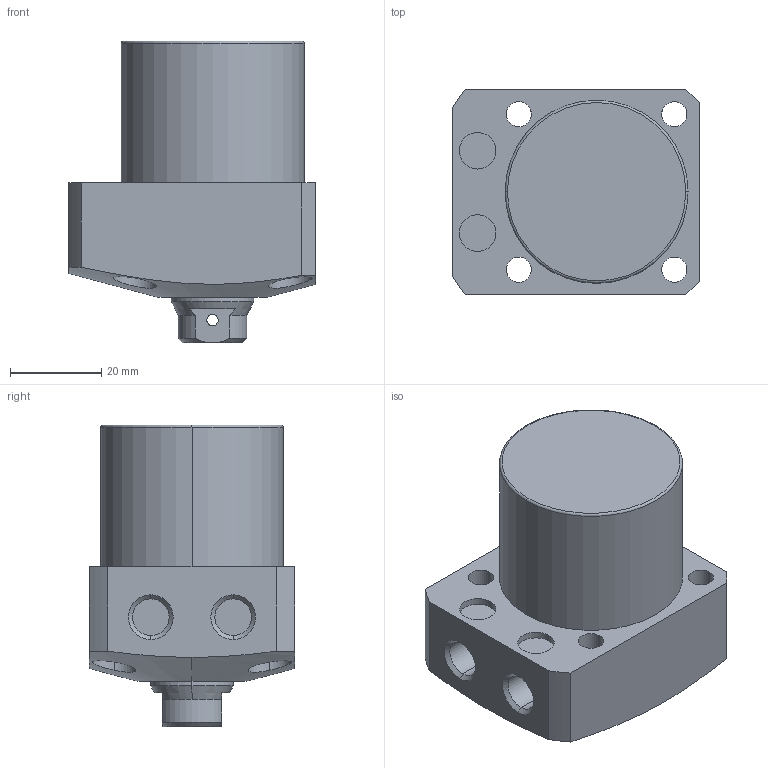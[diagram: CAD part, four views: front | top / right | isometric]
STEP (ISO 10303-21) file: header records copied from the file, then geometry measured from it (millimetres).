
FILE_DESCRIPTION (( 'STEP AP203' ), '1' );
FILE_NAME ('CLL-0400-CB-20.STEP', '2017-05-09T05:44:15', ( '' ), ( '' ), 'SwSTEP 2.0', 'SolidWorks 2015', '' );
FILE_SCHEMA (( 'CONFIG_CONTROL_DESIGN' ));
Length unit declared in the file: millimetre
Products named in the file (1): CLL-0400-CB-20
Bounding box: 54 x 45 x 66 mm (x, y, z)
Volume: 90371.8 mm3; surface area: 15824 mm2
Topology: 1 solids, 1 shells, 78 faces, 182 edges, 115 vertices
Faces by surface type: cylinder 39, plane 22, cone 15, torus 2
Entity records: 2728 total; most frequent: CARTESIAN_POINT 829, DIRECTION 394, ORIENTED_EDGE 360, EDGE_CURVE 180, AXIS2_PLACEMENT_3D 163, VERTEX_POINT 115, EDGE_LOOP 101, CIRCLE 84
